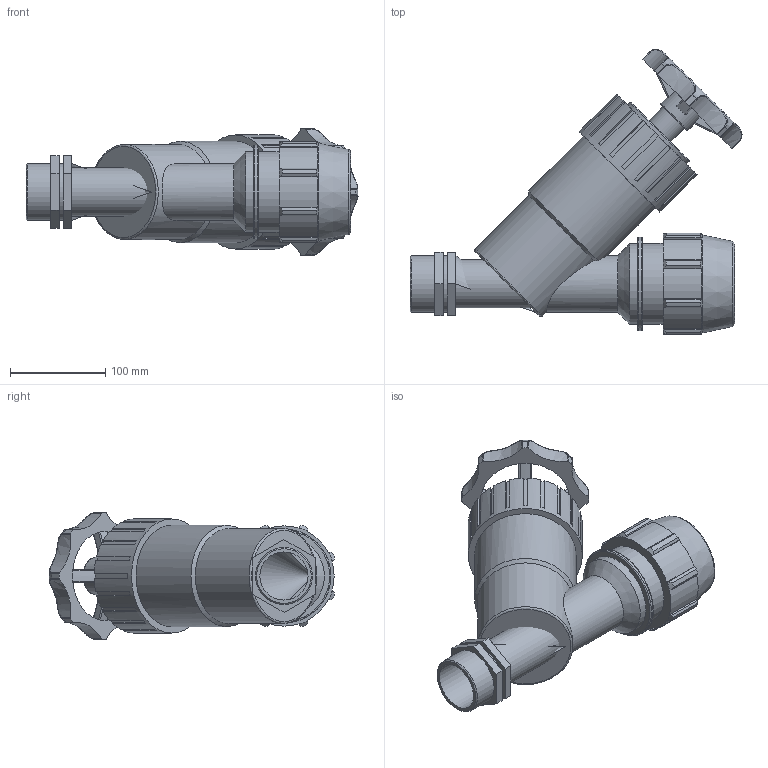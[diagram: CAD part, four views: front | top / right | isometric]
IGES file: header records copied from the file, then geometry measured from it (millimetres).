
Global section: file name: 03948630_039486320A.ipt; native system: Autodesk Inventor 2015; preprocessor: unknown; author: KIM; date: 20180916.173737; units: millimetre
Bounding box: 347.86 x 299.02 x 132.83 mm (x, y, z)
Volume: 2764542.4 mm3; surface area: 267018.2 mm2
Topology: 1 solids, 1 shells, 272 faces, 756 edges, 497 vertices
Faces by surface type: plane 130, cylinder 73, revolution 28, bspline 24, cone 17
Full cylindrical faces by diameter (mm): 31.882 x1, 39.852 x1, 59.614 x4, 84.75 x2, 87.674 x1, 98.31 x1, 99.63 x1, 106.272 x1, 119.556 x1
